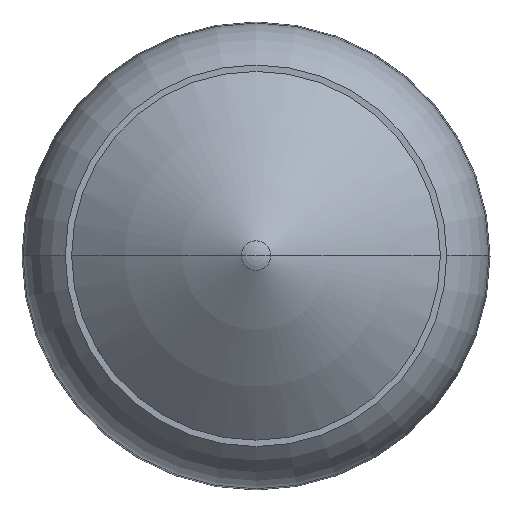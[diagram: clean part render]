
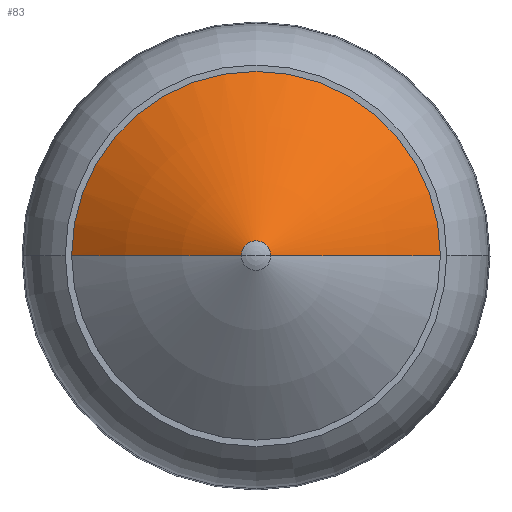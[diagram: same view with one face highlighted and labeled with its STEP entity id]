
A CAD part, top view. The second image highlights one B-rep face of the part: STEP entity #83.
In plain terms, the highlighted toroidal (fillet/blend) face has major radius 27.183 mm and minor radius 60 mm.
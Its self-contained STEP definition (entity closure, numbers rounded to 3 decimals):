
#83 = ADVANCED_FACE( '', ( #157 ), #158, .T. );
#157 = FACE_OUTER_BOUND( '', #294, .T. );
#158 = TOROIDAL_SURFACE( '', #295, -27.183, 60. );
#294 = EDGE_LOOP( '', ( #471, #472, #473, #474 ) );
#295 = AXIS2_PLACEMENT_3D( '', #475, #476, #477 );
#471 = ORIENTED_EDGE( '', *, *, #946, .F. );
#472 = ORIENTED_EDGE( '', *, *, #947, .T. );
#473 = ORIENTED_EDGE( '', *, *, #948, .F. );
#474 = ORIENTED_EDGE( '', *, *, #949, .F. );
#475 = CARTESIAN_POINT( '', ( 0., 0., -16.236 ) );
#476 = DIRECTION( '', ( 0., 0., -1. ) );
#477 = DIRECTION( '', ( -1., 0., 0. ) );
#946 = EDGE_CURVE( '', #1125, #1120, #1126, .T. );
#947 = EDGE_CURVE( '', #1125, #1127, #1128, .T. );
#948 = EDGE_CURVE( '', #1117, #1127, #1129, .T. );
#949 = EDGE_CURVE( '', #1120, #1117, #1130, .T. );
#1117 = VERTEX_POINT( '', #1378 );
#1120 = VERTEX_POINT( '', #1382 );
#1125 = VERTEX_POINT( '', #1388 );
#1126 = CIRCLE( '', #1389, 60. );
#1127 = VERTEX_POINT( '', #1390 );
#1128 = CIRCLE( '', #1391, 0.937 );
#1129 = CIRCLE( '', #1392, 60. );
#1130 = CIRCLE( '', #1393, 11.7 );
#1378 = CARTESIAN_POINT( '', ( 11.7, 0., 29.46 ) );
#1382 = CARTESIAN_POINT( '', ( -11.7, 0., 29.46 ) );
#1388 = CARTESIAN_POINT( '', ( -0.937, 0., 36.767 ) );
#1389 = AXIS2_PLACEMENT_3D( '', #1803, #1804, #1805 );
#1390 = CARTESIAN_POINT( '', ( 0.937, 0., 36.767 ) );
#1391 = AXIS2_PLACEMENT_3D( '', #1806, #1807, #1808 );
#1392 = AXIS2_PLACEMENT_3D( '', #1809, #1810, #1811 );
#1393 = AXIS2_PLACEMENT_3D( '', #1812, #1813, #1814 );
#1803 = CARTESIAN_POINT( '', ( 27.183, 0., -16.236 ) );
#1804 = DIRECTION( '', ( 0., -1., 0. ) );
#1805 = DIRECTION( '', ( -1., 0., 0. ) );
#1806 = CARTESIAN_POINT( '', ( 0., 0., 36.767 ) );
#1807 = DIRECTION( '', ( 0., 0., -1. ) );
#1808 = DIRECTION( '', ( 1., 0., 0. ) );
#1809 = CARTESIAN_POINT( '', ( -27.183, 0., -16.236 ) );
#1810 = DIRECTION( '', ( 0., -1., 0. ) );
#1811 = DIRECTION( '', ( 1., 0., 0. ) );
#1812 = CARTESIAN_POINT( '', ( 0., 0., 29.46 ) );
#1813 = DIRECTION( '', ( 0., 0., -1. ) );
#1814 = DIRECTION( '', ( 1., 0., 0. ) );
